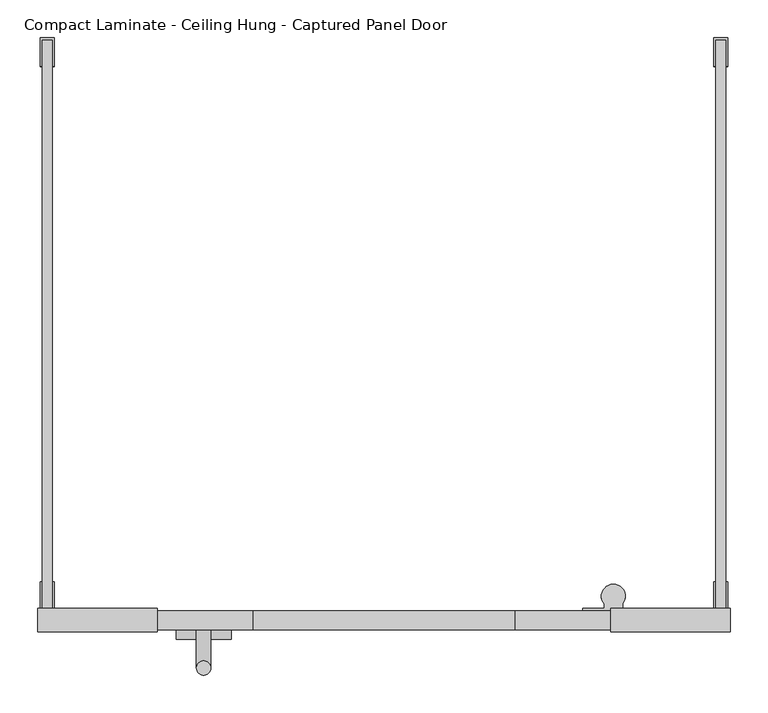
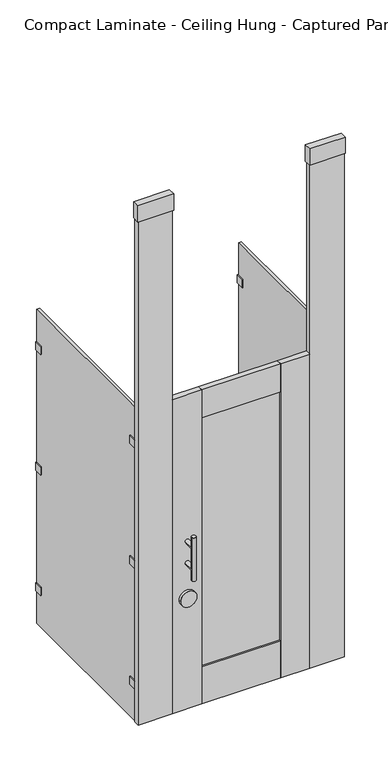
"""IFC4 building model written with IfcOpenShell, lengths in millimetres: proxy geometry, Toilet-Partition_Ironwood-Mfg_Compact-Laminate : Compact Laminate - Ceiling Hung - Captured Panel Door."""

from ifc_helpers import new_model, si_unit, point, frame, frame_2d, origin, place, context, project, spatial, polyline, circle_curve, ellipse_curve, trimmed, segment, composite_curve, outline, extrude, source, transform, mapped, element, save
from ifc_brep_helpers import plane_surface, cylinder_surface, advanced_brep


def compact_laminate_ceiling_hung_captured_panel_door_a59acb82(model_context):
    return source(origin(), model_context, "Body", "SolidModel", [
        extrude(outline(polyline([(542.925, -790.575), (542.925, -758.825), (701.675, -758.825), (701.675, -790.575), (542.925, -790.575)])), frame((0.0, 0.0, 2667.0), z_axis=(0.0, 0.0, 1.0), x_axis=(1.0, 0.0, 0.0)), (0.0, 0.0, 1.0), 76.1999999),
        extrude(outline(polyline([(0.0, 152.4), (25.4, 152.4), (25.4, 0.0), (0.0, 0.0), (0.0, 152.4)])), frame((546.1, -762.0, 304.8), z_axis=(1.181277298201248e-12, 0.0, 1.0), x_axis=(0.0, -1.0, 0.0)), (0.0, 0.0, 1.0), 2362.2),
        extrude(outline(polyline([(-60.325, -790.575), (-219.075, -790.575), (-219.075, -758.825), (-60.325, -758.825), (-60.325, -790.575)])), frame((0.0, 0.0, 2667.0), z_axis=(0.0, 0.0, 1.0), x_axis=(1.0, 0.0, 0.0)), (0.0, 0.0, 1.0), 76.1999999),
        extrude(outline(polyline([(0.0, -152.4), (0.0, 0.0), (25.4, 0.0), (25.4, -152.4), (0.0, -152.4)])), frame((-63.5, -762.0, 304.8), z_axis=(-1.1812772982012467e-12, 0.0, 1.0), x_axis=(0.0, -1.0, 0.0)), (0.0, 0.0, 1.0), 2362.2),
        extrude(outline(polyline([(415.925, -781.05), (66.675, -781.05), (66.675, -768.35), (415.925, -768.35), (415.925, -781.05)])), frame((0.0, 0.0, 479.425), z_axis=(0.0, 0.0, 1.0), x_axis=(1.0, 0.0, 0.0)), (0.0, 0.0, 1.0), 1168.4),
        extrude(outline(polyline([(66.675, -762.0), (66.675, -787.4), (-63.5, -787.4), (-63.5, -762.0), (66.675, -762.0)])), frame((0.0, 0.0, 304.8), z_axis=(0.0, 0.0, 1.0), x_axis=(1.0, 0.0, 0.0)), (0.0, 0.0, 1.0), 1473.2),
        extrude(outline(polyline([(415.925, -762.0), (546.1, -762.0), (546.1, -787.4), (415.925, -787.4), (415.925, -762.0)])), frame((0.0, 0.0, 304.8), z_axis=(0.0, 0.0, 1.0), x_axis=(1.0, 0.0, 0.0)), (0.0, 0.0, 1.0), 1473.2),
        extrude(outline(polyline([(415.925, -762.0), (415.925, -787.4), (66.675, -787.4), (66.675, -762.0), (415.925, -762.0)])), frame((0.0, 0.0, 1647.825), z_axis=(0.0, 0.0, 1.0), x_axis=(1.0, 0.0, 0.0)), (0.0, 0.0, 1.0), 130.175),
        extrude(outline(polyline([(415.925, -762.0), (415.925, -787.4), (66.675, -787.4), (66.675, -762.0), (415.925, -762.0)])), frame((0.0, 0.0, 304.8), z_axis=(0.0, 0.0, 1.0), x_axis=(1.0, 0.0, 0.0)), (0.0, 0.0, 1.0), 174.625),
        extrude(outline(composite_curve([segment(trimmed(circle_curve(frame_2d((827.0875, 1.5875)), 36.5125), [point((827.0875, -34.925))], [point((827.0875, 38.1))], False, "CARTESIAN"), True, "CONTINUOUS"), segment(trimmed(circle_curve(frame_2d((827.0875, 1.5875)), 36.5125), [point((827.0875, 38.1))], [point((827.0875, -34.925))], False, "CARTESIAN"), True, "CONTINUOUS")], self_intersect=False)), frame((0.0, -800.1, 0.0), z_axis=(0.0, 1.0, 0.0), x_axis=(0.0, 0.0, 1.0)), (0.0, 0.0, 1.0), 12.7),
        advanced_brep(
        [(-7.9375, -787.4, 1092.2), (11.1125, -787.4, 1092.2), (-7.9375, -787.4, 990.6), (11.1125, -787.4, 990.6), (11.1125, -838.2, 1092.2), (-7.9375, -838.2, 1092.2), (11.1125, -838.2, 990.6), (-7.9375, -838.2, 990.6), (-7.9375, -838.2, 1143.0), (11.1125, -838.2, 1143.0), (-7.9375, -838.2, 939.8), (11.1125, -838.2, 939.8)],
        [
            (0, 1, circle_curve(frame((1.5875, -787.4, 1092.2), z_axis=(0.0, 1.0, 0.0), x_axis=(1.0, 0.0, 0.0)), 9.525)),
            (1, 0, circle_curve(frame((1.5875, -787.4, 1092.2), z_axis=(0.0, 1.0, 0.0), x_axis=(1.0, 0.0, 0.0)), 9.525)),
            (2, 3, circle_curve(frame((1.5875, -787.4, 990.6), z_axis=(0.0, 1.0, 0.0), x_axis=(1.0, 0.0, 0.0)), 9.525)),
            (3, 2, circle_curve(frame((1.5875, -787.4, 990.6), z_axis=(0.0, 1.0, 0.0), x_axis=(1.0, 0.0, 0.0)), 9.525)),
            (1, 4),
            (4, 5, ellipse_curve(frame((1.5875, -838.2, 1092.2), z_axis=(0.0, 0.7071067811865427, 0.7071067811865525), x_axis=(0.0, -0.7071067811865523, 0.7071067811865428)), 13.4703842, 9.525)),
            (5, 0),
            (5, 4, ellipse_curve(frame((1.5875, -838.2, 1092.2), z_axis=(0.0, 0.7071067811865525, -0.7071067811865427), x_axis=(0.0, -0.7071067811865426, -0.7071067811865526)), 13.4703842, 9.525)),
            (3, 6),
            (6, 7, ellipse_curve(frame((1.5875, -838.2, 990.6), z_axis=(0.0, 0.7071067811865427, 0.7071067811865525), x_axis=(0.0, -0.7071067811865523, 0.7071067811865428)), 13.4703842, 9.525)),
            (7, 2),
            (7, 6, ellipse_curve(frame((1.5875, -838.2, 990.6), z_axis=(0.0, 0.7071067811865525, -0.7071067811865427), x_axis=(0.0, -0.7071067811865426, -0.7071067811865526)), 13.4703842, 9.525)),
            (8, 9, circle_curve(frame((1.5875, -838.2, 1143.0), z_axis=(0.0, 0.0, 1.0), x_axis=(1.0, 0.0, 0.0)), 9.525)),
            (9, 8, circle_curve(frame((1.5875, -838.2, 1143.0), z_axis=(0.0, 0.0, 1.0), x_axis=(1.0, 0.0, 0.0)), 9.525)),
            (10, 11, circle_curve(frame((1.5875, -838.2, 939.8), z_axis=(0.0, 0.0, -1.0), x_axis=(1.0, 0.0, 0.0)), 9.525)),
            (11, 10, circle_curve(frame((1.5875, -838.2, 939.8), z_axis=(0.0, 0.0, -1.0), x_axis=(1.0, 0.0, 0.0)), 9.525)),
            (8, 5),
            (5, 7),
            (7, 10),
            (11, 6),
            (6, 4),
            (4, 9),
        ],
        [
            plane_surface(frame((11.1125, -787.4, 1092.2), z_axis=(0.0, 1.0, 0.0), x_axis=(0.0, 0.0, -1.0))),
            cylinder_surface(frame((1.5875, -787.4, 1092.2), z_axis=(0.0, -1.0, 0.0), x_axis=(1.0, 0.0, 0.0)), 9.525),
            cylinder_surface(frame((1.5875, -787.4, 990.6), z_axis=(0.0, -1.0, 0.0), x_axis=(1.0, 0.0, 0.0)), 9.525),
            plane_surface(frame((11.1125, -838.2, 1143.0), z_axis=(0.0, 0.0, 1.0), x_axis=(0.0, 1.0, 0.0))),
            plane_surface(frame((11.1125, -838.2, 939.8), z_axis=(0.0, 0.0, -1.0), x_axis=(0.0, -1.0, 0.0))),
            cylinder_surface(frame((1.5875, -838.2, 939.8), z_axis=(0.0, 0.0, 1.0), x_axis=(1.0, 0.0, 0.0)), 9.525),
        ],
        [
            (0, [[1, 2]]),
            (0, [[3, 4]]),
            (1, [[-2, 5, 6, 7]]),
            (1, [[-1, -7, 8, -5]]),
            (2, [[-4, 9, 10, 11]]),
            (2, [[-3, -11, 12, -9]]),
            (3, [[13, 14]]),
            (4, [[15, 16]]),
            (5, [[-13, 17, 18, 19, -16, 20, 21, 22]]),
            (5, [[-14, -22, -8, -17]]),
            (5, [[-15, -19, -10, -20]]),
            (5, [[-18, -6, -21, -12]]),
        ],
    ),
        extrude(outline(composite_curve([segment(polyline([(581.3737081, -762.0), (505.1737081, -762.0), (505.1737081, -758.825), (533.7487081, -758.825), (533.7487081, -752.9581331)]), True, "CONTINUOUS"), segment(trimmed(circle_curve(frame_2d((546.1, -742.8902139)), 15.9347861), [point((533.7487081, -752.9581331))], [point((558.4512919, -752.9581331))], False, "CARTESIAN"), True, "CONTINUOUS"), segment(polyline([(558.4512919, -752.9581331), (558.4512919, -758.825), (581.3737081, -758.825), (581.3737081, -762.0)]), True, "CONTINUOUS")], self_intersect=False)), frame((0.0, 0.0, 1574.8), z_axis=(0.0, 0.0, 1.0), x_axis=(1.0, 0.0, 0.0)), (0.0, 0.0, 1.0), 63.5),
        extrude(outline(composite_curve([segment(polyline([(581.3737081, -762.0), (505.1737081, -762.0), (505.1737081, -758.825), (533.7487081, -758.825), (533.7487081, -752.9581331)]), True, "CONTINUOUS"), segment(trimmed(circle_curve(frame_2d((546.1, -742.8902139)), 15.9347861), [point((533.7487081, -752.9581331))], [point((558.4512919, -752.9581331))], False, "CARTESIAN"), True, "CONTINUOUS"), segment(polyline([(558.4512919, -752.9581331), (558.4512919, -758.825), (581.3737081, -758.825), (581.3737081, -762.0)]), True, "CONTINUOUS")], self_intersect=False)), frame((0.0, 0.0, 1009.6500001), z_axis=(0.0, 0.0, 1.0), x_axis=(1.0, 0.0, 0.0)), (0.0, 0.0, 1.0), 63.5),
        extrude(outline(composite_curve([segment(polyline([(581.3737081, -762.0), (505.1737081, -762.0), (505.1737081, -758.825), (533.7487081, -758.825), (533.7487081, -752.9581331)]), True, "CONTINUOUS"), segment(trimmed(circle_curve(frame_2d((546.1, -742.8902139)), 15.9347861), [point((533.7487081, -752.9581331))], [point((558.4512919, -752.9581331))], False, "CARTESIAN"), True, "CONTINUOUS"), segment(polyline([(558.4512919, -752.9581331), (558.4512919, -758.825), (581.3737081, -758.825), (581.3737081, -762.0)]), True, "CONTINUOUS")], self_intersect=False)), frame((0.0, 0.0, 444.5), z_axis=(0.0, 0.0, 1.0), x_axis=(1.0, 0.0, 0.0)), (0.0, 0.0, 1.0), 63.5),
        extrude(outline(polyline([(682.498, -723.9), (682.498, -758.825), (695.198, -758.825), (695.198, -723.9), (698.373, -723.9), (698.373, -762.0), (679.323, -762.0), (679.323, -723.9), (682.498, -723.9)])), frame((0.0, 0.0, 1587.8188137), z_axis=(0.0, 0.0, 1.0), x_axis=(1.0, 0.0, 0.0)), (0.0, 0.0, 1.0), 38.1),
        extrude(outline(polyline([(682.498, -38.1), (679.323, -38.1), (679.323, 0.0), (698.373, 0.0), (698.373, -38.1), (695.198, -38.1), (695.198, -3.175), (682.498, -3.175), (682.498, -38.1)])), frame((0.0, 0.0, 1587.8188137), z_axis=(0.0, 0.0, 1.0), x_axis=(1.0, 0.0, 0.0)), (0.0, 0.0, 1.0), 38.1),
        extrude(outline(polyline([(682.498, -723.9), (682.498, -758.825), (695.198, -758.825), (695.198, -723.9), (698.373, -723.9), (698.373, -762.0), (679.323, -762.0), (679.323, -723.9), (682.498, -723.9)])), frame((0.0, 0.0, 1022.35), z_axis=(0.0, 0.0, 1.0), x_axis=(1.0, 0.0, 0.0)), (0.0, 0.0, 1.0), 38.1),
        extrude(outline(polyline([(682.498, -38.1), (679.323, -38.1), (679.323, 0.0), (698.373, 0.0), (698.373, -38.1), (695.198, -38.1), (695.198, -3.175), (682.498, -3.175), (682.498, -38.1)])), frame((0.0, 0.0, 1022.35), z_axis=(0.0, 0.0, 1.0), x_axis=(1.0, 0.0, 0.0)), (0.0, 0.0, 1.0), 38.1),
        extrude(outline(polyline([(682.498, -723.9), (682.498, -758.825), (695.198, -758.825), (695.198, -723.9), (698.373, -723.9), (698.373, -762.0), (679.323, -762.0), (679.323, -723.9), (682.498, -723.9)])), frame((0.0, 0.0, 457.2), z_axis=(0.0, 0.0, 1.0), x_axis=(1.0, 0.0, 0.0)), (0.0, 0.0, 1.0), 38.1),
        extrude(outline(polyline([(682.498, -38.1), (679.323, -38.1), (679.323, 0.0), (698.373, 0.0), (698.373, -38.1), (695.198, -38.1), (695.198, -3.175), (682.498, -3.175), (682.498, -38.1)])), frame((0.0, 0.0, 457.2), z_axis=(0.0, 0.0, 1.0), x_axis=(1.0, 0.0, 0.0)), (0.0, 0.0, 1.0), 38.1),
        extrude(outline(polyline([(-212.598, -723.9), (-212.598, -758.825), (-199.898, -758.825), (-199.898, -723.9), (-196.723, -723.9), (-196.723, -762.0), (-215.773, -762.0), (-215.773, -723.9), (-212.598, -723.9)])), frame((0.0, 0.0, 1587.8188137), z_axis=(0.0, 0.0, 1.0), x_axis=(1.0, 0.0, 0.0)), (0.0, 0.0, 1.0), 38.1),
        extrude(outline(polyline([(-212.598, -38.1), (-215.773, -38.1), (-215.773, 0.0), (-196.723, 0.0), (-196.723, -38.1), (-199.898, -38.1), (-199.898, -3.175), (-212.598, -3.175), (-212.598, -38.1)])), frame((0.0, 0.0, 1587.8188137), z_axis=(0.0, 0.0, 1.0), x_axis=(1.0, 0.0, 0.0)), (0.0, 0.0, 1.0), 38.1),
        extrude(outline(polyline([(-212.598, -723.9), (-212.598, -758.825), (-199.898, -758.825), (-199.898, -723.9), (-196.723, -723.9), (-196.723, -762.0), (-215.773, -762.0), (-215.773, -723.9), (-212.598, -723.9)])), frame((0.0, 0.0, 1022.35), z_axis=(0.0, 0.0, 1.0), x_axis=(1.0, 0.0, 0.0)), (0.0, 0.0, 1.0), 38.1),
        extrude(outline(polyline([(-212.598, -38.1), (-215.773, -38.1), (-215.773, 0.0), (-196.723, 0.0), (-196.723, -38.1), (-199.898, -38.1), (-199.898, -3.175), (-212.598, -3.175), (-212.598, -38.1)])), frame((0.0, 0.0, 1022.35), z_axis=(0.0, 0.0, 1.0), x_axis=(1.0, 0.0, 0.0)), (0.0, 0.0, 1.0), 38.1),
        extrude(outline(polyline([(-212.598, -723.9), (-212.598, -758.825), (-199.898, -758.825), (-199.898, -723.9), (-196.723, -723.9), (-196.723, -762.0), (-215.773, -762.0), (-215.773, -723.9), (-212.598, -723.9)])), frame((0.0, 0.0, 457.2), z_axis=(0.0, 0.0, 1.0), x_axis=(1.0, 0.0, 0.0)), (0.0, 0.0, 1.0), 38.1),
        extrude(outline(polyline([(-212.598, -38.1), (-215.773, -38.1), (-215.773, 0.0), (-196.723, 0.0), (-196.723, -38.1), (-199.898, -38.1), (-199.898, -3.175), (-212.598, -3.175), (-212.598, -38.1)])), frame((0.0, 0.0, 457.2), z_axis=(0.0, 0.0, 1.0), x_axis=(1.0, 0.0, 0.0)), (0.0, 0.0, 1.0), 38.1),
        extrude(outline(polyline([(-199.898, -3.175), (-199.898, -758.825), (-212.598, -758.825), (-212.598, -3.175), (-199.898, -3.175)])), frame((0.0, 0.0, 304.8), z_axis=(0.0, 0.0, 1.0), x_axis=(1.0, 0.0, 0.0)), (0.0, 0.0, 1.0), 1473.2),
        extrude(outline(polyline([(695.198, -3.175), (695.198, -758.825), (682.498, -758.825), (682.498, -3.175), (695.198, -3.175)])), frame((0.0, 0.0, 304.8), z_axis=(0.0, 0.0, 1.0), x_axis=(1.0, 0.0, 0.0)), (0.0, 0.0, 1.0), 1473.2),
    ])


if __name__ == "__main__":
    model = new_model("IFC4")
    model_context = context("Model", 3, world=origin())
    ifc_project = project(units=[si_unit("LENGTHUNIT", "METRE", prefix="MILLI")], contexts=[model_context])
    site = spatial("IfcSite", under=ifc_project)
    building = spatial("IfcBuilding", under=site)
    placement = place(None, origin())
    compact_laminate_ceiling_hung_captured_panel_door_shape = compact_laminate_ceiling_hung_captured_panel_door_a59acb82(model_context)
    element("IfcBuildingElementProxy", 1, Name="Toilet-Partition_Ironwood-Mfg_Compact-Laminate : Compact Laminate - Ceiling Hung - Captured Panel Door", ObjectType="Toilet-Partition_Ironwood-Mfg_Compact-Laminate : Compact Laminate - Ceiling Hung - Captured Panel Door", at=placement, inside=building, context=model_context, shape_type="MappedRepresentation", body=[
        mapped(compact_laminate_ceiling_hung_captured_panel_door_shape, transform((0.0, 0.0, 0.0), x_axis=(1.0, 0.0, 0.0), y_axis=(0.0, 1.0, 0.0), z_axis=(0.0, 0.0, 1.0))),
    ])
    save(model, "model.ifc")
